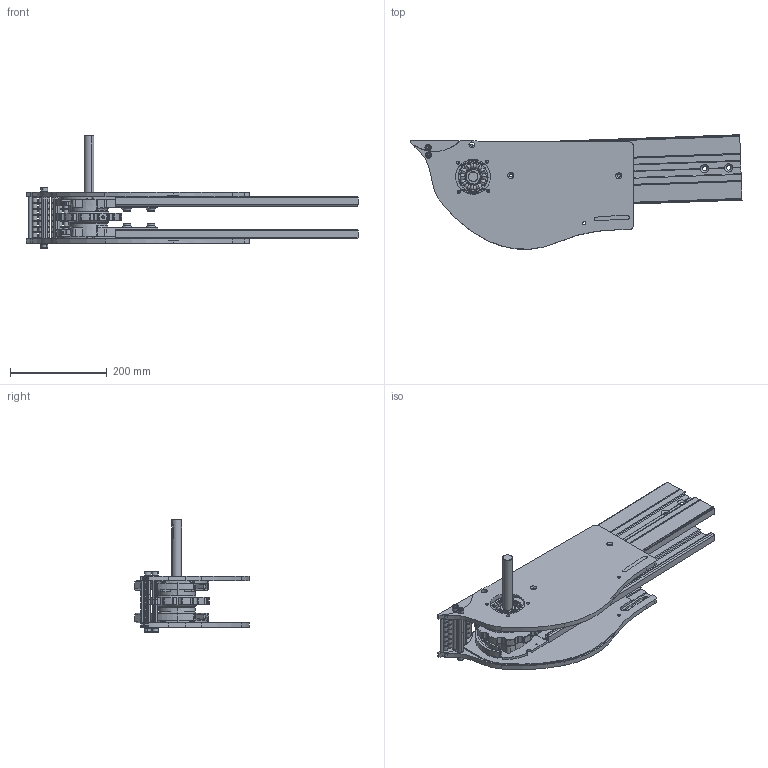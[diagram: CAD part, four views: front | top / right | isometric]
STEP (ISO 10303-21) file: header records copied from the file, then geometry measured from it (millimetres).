
FILE_DESCRIPTION (( 'STEP AP214' ), '1' );
FILE_NAME ('R2M-D20galets escamotables.STEP', '2011-06-28T12:33:53', ( '.' ), ( '' ), 'SwSTEP 2.0', 'SolidWorks 2010', '' );
FILE_SCHEMA (( 'AUTOMOTIVE_DESIGN' ));
Length unit declared in the file: millimetre
Products named in the file (17): AXE_D6 (transfert à galets)_AXE_D6-102_INOX; R2M-D20galets escamotables; Carter sous chaine_Robur 2 à 120° (G); R2PG-HD1000_R2 std sup; R-CMG-escamotable_A gauche ouvert; R-CMG-escamotable_A droite fermé; Carter sous chaine_Robur 2 à 120° (D); 3-880-11N_ROBUR; Roulement type BT 30x62x20; Emile_Maurin_23210_V_CHC_8x50_EF___cl_8_8___EN_ISO_4762_DIN_912_Emile Maurin 23210 V.CHC 8x50 EF   cl 8,8   EN ISO 4762 DIN 912; 1-2 chape; galet escamotable_Default; R2FS pour R2M_à droite; R2FS pour R2M_à gauche; AXE-R2_R2M20; GT_6-10; AF12-8_86
Assembly tree (79 placements, depth 2):
  R2M-D20galets escamotables
    GT_6-10  x46
    Carter sous chaine_Robur 2 à 120° (G)
    Carter sous chaine_Robur 2 à 120° (D)
    1-2 chape  x2
    R2PG-HD1000_R2 std sup  x4
    AXE_D6 (transfert à galets)_AXE_D6-102_INOX  x8
    AF12-8_86  x3
    Emile_Maurin_23210_V_CHC_8x50_EF___cl_8_8___EN_ISO_4762_DIN_912_Emile Maurin 23210 V.CHC 8x50 EF   cl 8,8   EN ISO 4762 DIN 912  x4
    R2FS pour R2M_à gauche
    AXE-R2_R2M20
    R-CMG-escamotable_A gauche ouvert
    R-CMG-escamotable_A droite fermé
    galet escamotable_Default  x2
    3-880-11N_ROBUR
    R2FS pour R2M_à droite
    Roulement type BT 30x62x20  x2
Bounding box: 685.05 x 236.16 x 232.5 mm (x, y, z)
Volume: 3168283.1 mm3; surface area: 1123164.7 mm2
Topology: 79 solids, 79 shells, 1718 faces, 4703 edges, 3069 vertices
Faces by surface type: cylinder 769, plane 618, cone 179, torus 102, sphere 48, bspline 2
Entity records: 34251 total; most frequent: CARTESIAN_POINT 7796, DIRECTION 5511, ORIENTED_EDGE 5332, EDGE_CURVE 2666, AXIS2_PLACEMENT_3D 2136, VERTEX_POINT 1751, VECTOR 1239, LINE 1239
